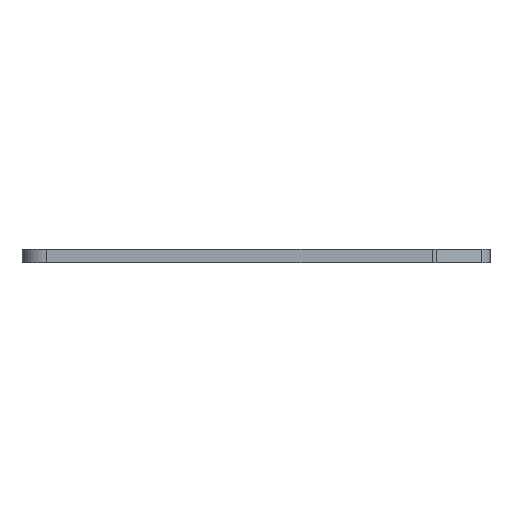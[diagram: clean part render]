
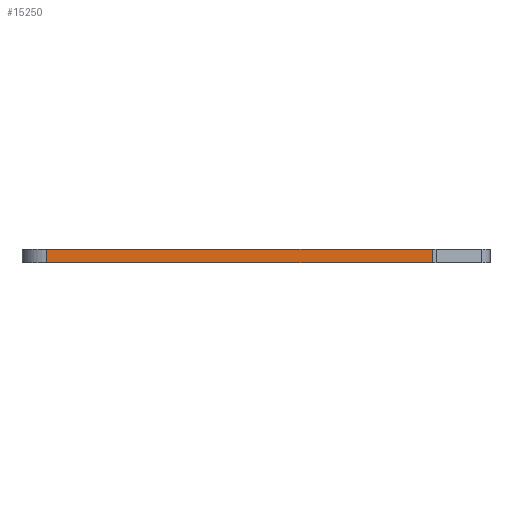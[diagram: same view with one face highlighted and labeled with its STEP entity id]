
A CAD part, front view. The second image highlights one B-rep face of the part: STEP entity #15250.
In plain terms, the highlighted planar face has unit normal (0, -1, 0).
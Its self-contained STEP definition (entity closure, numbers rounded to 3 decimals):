
#1820=CARTESIAN_POINT('',(75.703,-38.2,
2.2));
#1830=VERTEX_POINT('',#1820);
#1860=CARTESIAN_POINT('',(47.92,-38.2,2.2))
;
#1870=DIRECTION('',(-1.,0.,0.));
#1880=VECTOR('',#1870,1.);
#1890=LINE('',#1860,#1880);
#1900=CARTESIAN_POINT('',(12.73,-38.2,
2.2));
#1910=VERTEX_POINT('',#1900);
#1920=EDGE_CURVE('',#1830,#1910,#1890,.T.);
#14950=CARTESIAN_POINT('',(67.53,-38.2,
0.));
#14960=DIRECTION('',(0.,-1.,0.));
#14970=DIRECTION('',(-1.,0.,0.));
#14980=AXIS2_PLACEMENT_3D('',#14950,#14960,#14970);
#14990=PLANE('',#14980);
#15000=CARTESIAN_POINT('',(75.703,-38.2,
0.));
#15010=DIRECTION('',(0.,0.,1.));
#15020=VECTOR('',#15010,1.);
#15030=LINE('',#15000,#15020);
#15040=CARTESIAN_POINT('',(75.703,-38.2,
0.));
#15050=VERTEX_POINT('',#15040);
#15060=EDGE_CURVE('',#15050,#1830,#15030,.T.);
#15070=ORIENTED_EDGE('',*,*,#15060,.T.);
#15080=CARTESIAN_POINT('',(47.92,-38.2,
0.));
#15090=DIRECTION('',(1.,0.,0.));
#15100=VECTOR('',#15090,1.);
#15110=LINE('',#15080,#15100);
#15120=CARTESIAN_POINT('',(12.73,-38.2,
0.));
#15130=VERTEX_POINT('',#15120);
#15140=EDGE_CURVE('',#15130,#15050,#15110,.T.);
#15150=ORIENTED_EDGE('',*,*,#15140,.T.);
#15160=CARTESIAN_POINT('',(12.73,-38.2,
0.));
#15170=DIRECTION('',(0.,0.,-1.));
#15180=VECTOR('',#15170,1.);
#15190=LINE('',#15160,#15180);
#15200=EDGE_CURVE('',#1910,#15130,#15190,.T.);
#15210=ORIENTED_EDGE('',*,*,#15200,.T.);
#15220=ORIENTED_EDGE('',*,*,#1920,.T.);
#15230=EDGE_LOOP('',(#15220,#15210,#15150,#15070));
#15240=FACE_OUTER_BOUND('',#15230,.T.);
#15250=ADVANCED_FACE('',(#15240),#14990,.T.);
